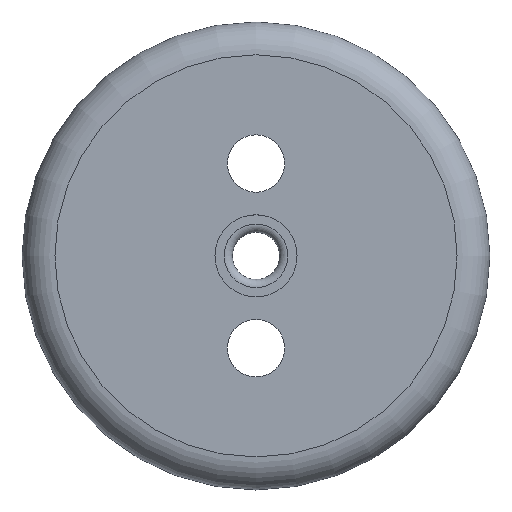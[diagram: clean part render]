
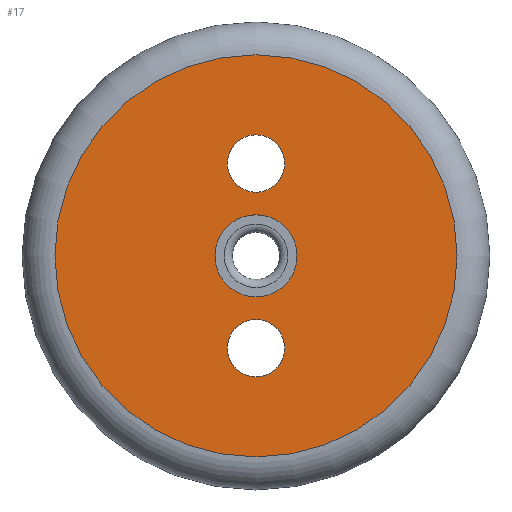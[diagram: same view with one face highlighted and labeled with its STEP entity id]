
A CAD part, top view. The second image highlights one B-rep face of the part: STEP entity #17.
In plain terms, the highlighted planar face has unit normal (0, 0, 1).
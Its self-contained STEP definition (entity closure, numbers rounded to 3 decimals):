
#17 = ADVANCED_FACE('',(#18,#54,#89,#124),#31,.T.);
#18 = FACE_BOUND('',#19,.F.);
#19 = EDGE_LOOP('',(#20));
#20 = ORIENTED_EDGE('',*,*,#21,.F.);
#21 = EDGE_CURVE('',#22,#22,#24,.T.);
#22 = VERTEX_POINT('',#23);
#23 = CARTESIAN_POINT('',(49.,0.,0.));
#24 = SURFACE_CURVE('',#25,(#30,#42),.PCURVE_S1.);
#25 = CIRCLE('',#26,49.);
#26 = AXIS2_PLACEMENT_3D('',#27,#28,#29);
#27 = CARTESIAN_POINT('',(0.,0.,0.));
#28 = DIRECTION('',(0.,0.,1.));
#29 = DIRECTION('',(1.,0.,-0.));
#30 = PCURVE('',#31,#36);
#31 = PLANE('',#32);
#32 = AXIS2_PLACEMENT_3D('',#33,#34,#35);
#33 = CARTESIAN_POINT('',(0.,0.,0.));
#34 = DIRECTION('',(0.,0.,1.));
#35 = DIRECTION('',(1.,0.,-0.));
#36 = DEFINITIONAL_REPRESENTATION('',(#37),#41);
#37 = CIRCLE('',#38,49.);
#38 = AXIS2_PLACEMENT_2D('',#39,#40);
#39 = CARTESIAN_POINT('',(0.,0.));
#40 = DIRECTION('',(1.,0.));
#41 = ( GEOMETRIC_REPRESENTATION_CONTEXT(2) 
PARAMETRIC_REPRESENTATION_CONTEXT() REPRESENTATION_CONTEXT('2D SPACE',''
  ) );
#42 = PCURVE('',#43,#48);
#43 = TOROIDAL_SURFACE('',#44,49.,8.);
#44 = AXIS2_PLACEMENT_3D('',#45,#46,#47);
#45 = CARTESIAN_POINT('',(0.,0.,-8.));
#46 = DIRECTION('',(-0.,-0.,-1.));
#47 = DIRECTION('',(1.,0.,-0.));
#48 = DEFINITIONAL_REPRESENTATION('',(#49),#53);
#49 = LINE('',#50,#51);
#50 = CARTESIAN_POINT('',(6.283,4.712));
#51 = VECTOR('',#52,1.);
#52 = DIRECTION('',(-1.,0.));
#53 = ( GEOMETRIC_REPRESENTATION_CONTEXT(2) 
PARAMETRIC_REPRESENTATION_CONTEXT() REPRESENTATION_CONTEXT('2D SPACE',''
  ) );
#54 = FACE_BOUND('',#55,.F.);
#55 = EDGE_LOOP('',(#56));
#56 = ORIENTED_EDGE('',*,*,#57,.F.);
#57 = EDGE_CURVE('',#58,#58,#60,.T.);
#58 = VERTEX_POINT('',#59);
#59 = CARTESIAN_POINT('',(7.,-22.5,0.));
#60 = SURFACE_CURVE('',#61,(#66,#77),.PCURVE_S1.);
#61 = CIRCLE('',#62,7.);
#62 = AXIS2_PLACEMENT_3D('',#63,#64,#65);
#63 = CARTESIAN_POINT('',(0.,-22.5,0.));
#64 = DIRECTION('',(0.,0.,-1.));
#65 = DIRECTION('',(1.,0.,0.));
#66 = PCURVE('',#31,#67);
#67 = DEFINITIONAL_REPRESENTATION('',(#68),#76);
#68 = ( BOUNDED_CURVE() B_SPLINE_CURVE(2,(#69,#70,#71,#72,#73,#74,#75),
.UNSPECIFIED.,.T.,.F.) B_SPLINE_CURVE_WITH_KNOTS((1,2,2,2,2,1),(
    -2.094,0.,2.094,4.189,6.283,
8.378),.UNSPECIFIED.) CURVE() GEOMETRIC_REPRESENTATION_ITEM() 
RATIONAL_B_SPLINE_CURVE((1.,0.5,1.,0.5,1.,0.5,1.)) REPRESENTATION_ITEM(
  '') );
#69 = CARTESIAN_POINT('',(7.,-22.5));
#70 = CARTESIAN_POINT('',(7.,-34.624));
#71 = CARTESIAN_POINT('',(-3.5,-28.562));
#72 = CARTESIAN_POINT('',(-14.,-22.5));
#73 = CARTESIAN_POINT('',(-3.5,-16.438));
#74 = CARTESIAN_POINT('',(7.,-10.376));
#75 = CARTESIAN_POINT('',(7.,-22.5));
#76 = ( GEOMETRIC_REPRESENTATION_CONTEXT(2) 
PARAMETRIC_REPRESENTATION_CONTEXT() REPRESENTATION_CONTEXT('2D SPACE',''
  ) );
#77 = PCURVE('',#78,#83);
#78 = CYLINDRICAL_SURFACE('',#79,7.);
#79 = AXIS2_PLACEMENT_3D('',#80,#81,#82);
#80 = CARTESIAN_POINT('',(0.,-22.5,-5.));
#81 = DIRECTION('',(-0.,-0.,-1.));
#82 = DIRECTION('',(1.,0.,0.));
#83 = DEFINITIONAL_REPRESENTATION('',(#84),#88);
#84 = LINE('',#85,#86);
#85 = CARTESIAN_POINT('',(0.,-5.));
#86 = VECTOR('',#87,1.);
#87 = DIRECTION('',(1.,-0.));
#88 = ( GEOMETRIC_REPRESENTATION_CONTEXT(2) 
PARAMETRIC_REPRESENTATION_CONTEXT() REPRESENTATION_CONTEXT('2D SPACE',''
  ) );
#89 = FACE_BOUND('',#90,.F.);
#90 = EDGE_LOOP('',(#91));
#91 = ORIENTED_EDGE('',*,*,#92,.F.);
#92 = EDGE_CURVE('',#93,#93,#95,.T.);
#93 = VERTEX_POINT('',#94);
#94 = CARTESIAN_POINT('',(10.,0.,0.));
#95 = SURFACE_CURVE('',#96,(#101,#112),.PCURVE_S1.);
#96 = CIRCLE('',#97,10.);
#97 = AXIS2_PLACEMENT_3D('',#98,#99,#100);
#98 = CARTESIAN_POINT('',(0.,0.,0.));
#99 = DIRECTION('',(0.,0.,-1.));
#100 = DIRECTION('',(1.,0.,0.));
#101 = PCURVE('',#31,#102);
#102 = DEFINITIONAL_REPRESENTATION('',(#103),#111);
#103 = ( BOUNDED_CURVE() B_SPLINE_CURVE(2,(#104,#105,#106,#107,#108,#109
,#110),.UNSPECIFIED.,.T.,.F.) B_SPLINE_CURVE_WITH_KNOTS((1,2,2,2,2,1),(
    -2.094,0.,2.094,4.189,6.283,
8.378),.UNSPECIFIED.) CURVE() GEOMETRIC_REPRESENTATION_ITEM() 
RATIONAL_B_SPLINE_CURVE((1.,0.5,1.,0.5,1.,0.5,1.)) REPRESENTATION_ITEM(
  '') );
#104 = CARTESIAN_POINT('',(10.,0.));
#105 = CARTESIAN_POINT('',(10.,-17.321));
#106 = CARTESIAN_POINT('',(-5.,-8.66));
#107 = CARTESIAN_POINT('',(-20.,0.));
#108 = CARTESIAN_POINT('',(-5.,8.66));
#109 = CARTESIAN_POINT('',(10.,17.321));
#110 = CARTESIAN_POINT('',(10.,0.));
#111 = ( GEOMETRIC_REPRESENTATION_CONTEXT(2) 
PARAMETRIC_REPRESENTATION_CONTEXT() REPRESENTATION_CONTEXT('2D SPACE',''
  ) );
#112 = PCURVE('',#113,#118);
#113 = CYLINDRICAL_SURFACE('',#114,10.);
#114 = AXIS2_PLACEMENT_3D('',#115,#116,#117);
#115 = CARTESIAN_POINT('',(0.,0.,-5.));
#116 = DIRECTION('',(-0.,-0.,-1.));
#117 = DIRECTION('',(1.,0.,0.));
#118 = DEFINITIONAL_REPRESENTATION('',(#119),#123);
#119 = LINE('',#120,#121);
#120 = CARTESIAN_POINT('',(0.,-5.));
#121 = VECTOR('',#122,1.);
#122 = DIRECTION('',(1.,-0.));
#123 = ( GEOMETRIC_REPRESENTATION_CONTEXT(2) 
PARAMETRIC_REPRESENTATION_CONTEXT() REPRESENTATION_CONTEXT('2D SPACE',''
  ) );
#124 = FACE_BOUND('',#125,.F.);
#125 = EDGE_LOOP('',(#126));
#126 = ORIENTED_EDGE('',*,*,#127,.F.);
#127 = EDGE_CURVE('',#128,#128,#130,.T.);
#128 = VERTEX_POINT('',#129);
#129 = CARTESIAN_POINT('',(7.,22.5,0.));
#130 = SURFACE_CURVE('',#131,(#136,#147),.PCURVE_S1.);
#131 = CIRCLE('',#132,7.);
#132 = AXIS2_PLACEMENT_3D('',#133,#134,#135);
#133 = CARTESIAN_POINT('',(0.,22.5,0.));
#134 = DIRECTION('',(0.,0.,-1.));
#135 = DIRECTION('',(1.,0.,0.));
#136 = PCURVE('',#31,#137);
#137 = DEFINITIONAL_REPRESENTATION('',(#138),#146);
#138 = ( BOUNDED_CURVE() B_SPLINE_CURVE(2,(#139,#140,#141,#142,#143,#144
,#145),.UNSPECIFIED.,.T.,.F.) B_SPLINE_CURVE_WITH_KNOTS((1,2,2,2,2,1),(
    -2.094,0.,2.094,4.189,6.283,
8.378),.UNSPECIFIED.) CURVE() GEOMETRIC_REPRESENTATION_ITEM() 
RATIONAL_B_SPLINE_CURVE((1.,0.5,1.,0.5,1.,0.5,1.)) REPRESENTATION_ITEM(
  '') );
#139 = CARTESIAN_POINT('',(7.,22.5));
#140 = CARTESIAN_POINT('',(7.,10.376));
#141 = CARTESIAN_POINT('',(-3.5,16.438));
#142 = CARTESIAN_POINT('',(-14.,22.5));
#143 = CARTESIAN_POINT('',(-3.5,28.562));
#144 = CARTESIAN_POINT('',(7.,34.624));
#145 = CARTESIAN_POINT('',(7.,22.5));
#146 = ( GEOMETRIC_REPRESENTATION_CONTEXT(2) 
PARAMETRIC_REPRESENTATION_CONTEXT() REPRESENTATION_CONTEXT('2D SPACE',''
  ) );
#147 = PCURVE('',#148,#153);
#148 = CYLINDRICAL_SURFACE('',#149,7.);
#149 = AXIS2_PLACEMENT_3D('',#150,#151,#152);
#150 = CARTESIAN_POINT('',(0.,22.5,-5.));
#151 = DIRECTION('',(-0.,-0.,-1.));
#152 = DIRECTION('',(1.,0.,0.));
#153 = DEFINITIONAL_REPRESENTATION('',(#154),#158);
#154 = LINE('',#155,#156);
#155 = CARTESIAN_POINT('',(0.,-5.));
#156 = VECTOR('',#157,1.);
#157 = DIRECTION('',(1.,-0.));
#158 = ( GEOMETRIC_REPRESENTATION_CONTEXT(2) 
PARAMETRIC_REPRESENTATION_CONTEXT() REPRESENTATION_CONTEXT('2D SPACE',''
  ) );
